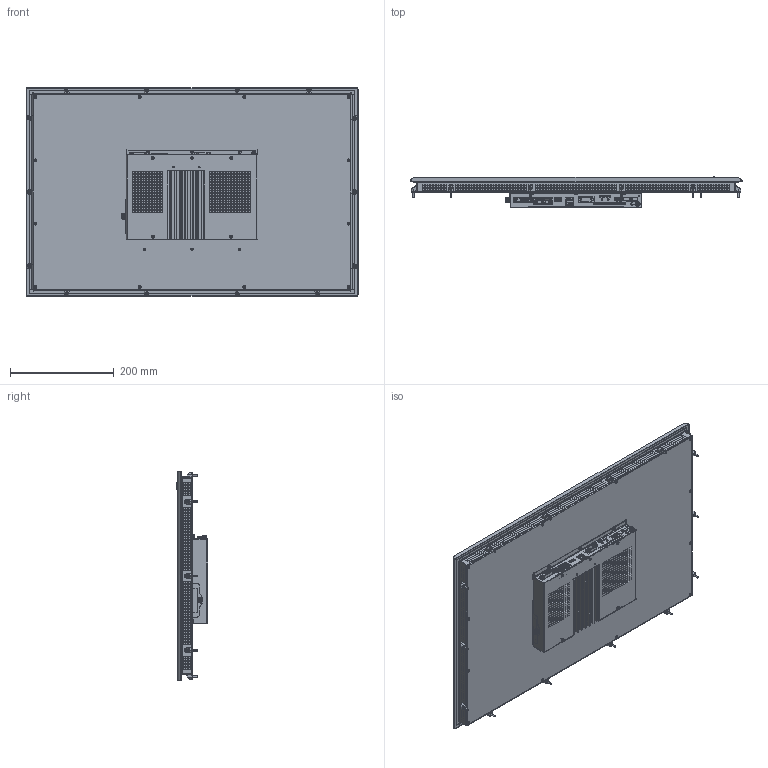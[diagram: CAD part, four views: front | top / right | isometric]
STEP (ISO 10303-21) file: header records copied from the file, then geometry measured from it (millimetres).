
FILE_DESCRIPTION((''),'2;1');
FILE_NAME('C6E22-Panel_240W_RES_SL','2017-03-07T',('manpal'),(''),'PRO/ENGINEER BY PARAMETRIC TECHNOLOGY CORPORATION, 2013410','PRO/ENGINEER BY PARAMETRIC TECHNOLOGY CORPORATION, 2013410','');
FILE_SCHEMA(('AUTOMOTIVE_DESIGN { 1 0 10303 214 1 1 1 1 }'));
Products named in the file (2): C6E22-Panel_240W_RES_SL_
Assembly tree (1 placements, depth 2):
  C6E22-Panel_240W_RES_SL_
    C6E22-Panel_240W_RES_SL_
Bounding box: 639.5 x 60.94 x 402 mm (x, y, z)
Surface area: 1298871.3 mm2 (no closed solid volume)
Topology: 0 solids, 372 shells, 4529 faces, 21881 edges, 17515 vertices
Faces by surface type: plane 3436, cylinder 674, cone 211, bspline 134, torus 43, sphere 27, extrusion 4
Entity records: 246633 total; most frequent: CARTESIAN_POINT 57081, DIRECTION 32448, ORIENTED_EDGE 30149, EDGE_CURVE 21839, VERTEX_POINT 17515, VECTOR 17506, LINE 17502, AXIS2_PLACEMENT_3D 7471
